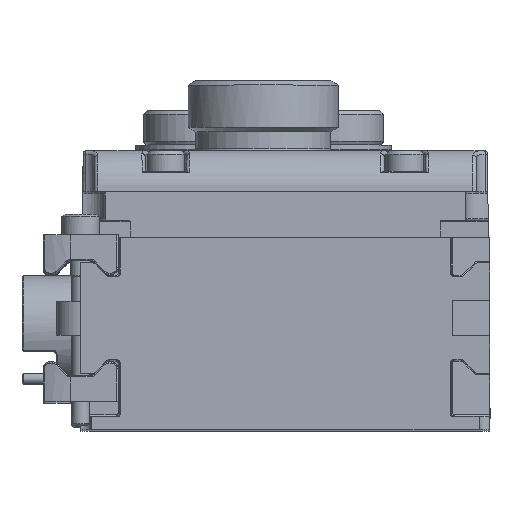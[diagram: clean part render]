
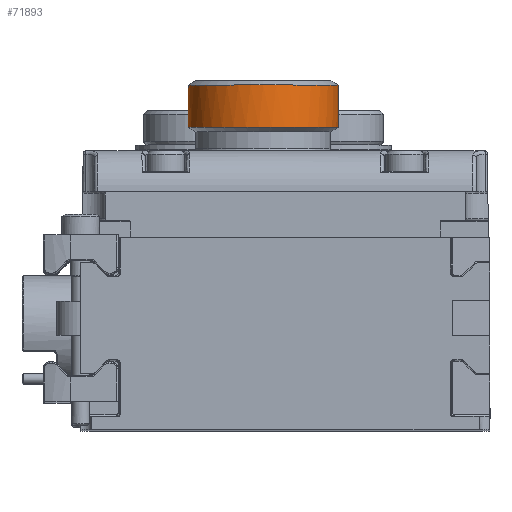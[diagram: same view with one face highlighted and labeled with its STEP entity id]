
A CAD part, top view. The second image highlights one B-rep face of the part: STEP entity #71893.
In plain terms, the highlighted cylindrical face has radius 11.034 mm (diameter 22.067 mm), a full revolution.
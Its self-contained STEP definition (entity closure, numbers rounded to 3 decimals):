
#1565 = CARTESIAN_POINT ( 'NONE',  ( -3.25, 37.1, 52.2 ) ) ;
#2072 = CARTESIAN_POINT ( 'NONE',  ( -3.25, 36.445, 52.2 ) ) ;
#6769 = CARTESIAN_POINT ( 'NONE',  ( -4.547, 30.255, 41.243 ) ) ;
#8201 = DIRECTION ( 'NONE',  ( 0., 0., 1. ) ) ;
#10813 = AXIS2_PLACEMENT_3D ( 'NONE', #1565, #13810, #38464 ) ;
#12703 = CYLINDRICAL_SURFACE ( 'NONE', #10813, 11.034 ) ;
#13810 = DIRECTION ( 'NONE',  ( 0., 1., 0. ) ) ;
#16273 = CARTESIAN_POINT ( 'NONE',  ( -3.25, 30.255, 52.2 ) ) ;
#21207 = VERTEX_POINT ( 'NONE', #6769 ) ;
#22438 = DIRECTION ( 'NONE',  ( -0.118, 0., -0.993 ) ) ;
#25437 = AXIS2_PLACEMENT_3D ( 'NONE', #16273, #59050, #22438 ) ;
#29985 = CARTESIAN_POINT ( 'NONE',  ( -3.25, 36.445, 63.234 ) ) ;
#35740 = EDGE_CURVE ( 'NONE', #21207, #21207, #62096, .T. ) ;
#36657 = FACE_OUTER_BOUND ( 'NONE', #69340, .T. ) ;
#37379 = CIRCLE ( 'NONE', #78769, 11.034 ) ;
#38464 = DIRECTION ( 'NONE',  ( -0.118, 0., -0.993 ) ) ;
#44821 = DIRECTION ( 'NONE',  ( 0., 1., 0. ) ) ;
#50388 = ORIENTED_EDGE ( 'NONE', *, *, #35740, .T. ) ;
#51007 = FACE_OUTER_BOUND ( 'NONE', #59638, .T. ) ;
#59050 = DIRECTION ( 'NONE',  ( 0., 1., 0. ) ) ;
#59638 = EDGE_LOOP ( 'NONE', ( #50388 ) ) ;
#60222 = VERTEX_POINT ( 'NONE', #29985 ) ;
#61136 = EDGE_CURVE ( 'NONE', #60222, #60222, #37379, .T. ) ;
#62096 = CIRCLE ( 'NONE', #25437, 11.034 ) ;
#69340 = EDGE_LOOP ( 'NONE', ( #78485 ) ) ;
#71893 = ADVANCED_FACE ( 'NONE', ( #51007, #36657 ), #12703, .T. ) ;
#78485 = ORIENTED_EDGE ( 'NONE', *, *, #61136, .F. ) ;
#78769 = AXIS2_PLACEMENT_3D ( 'NONE', #2072, #44821, #8201 ) ;
